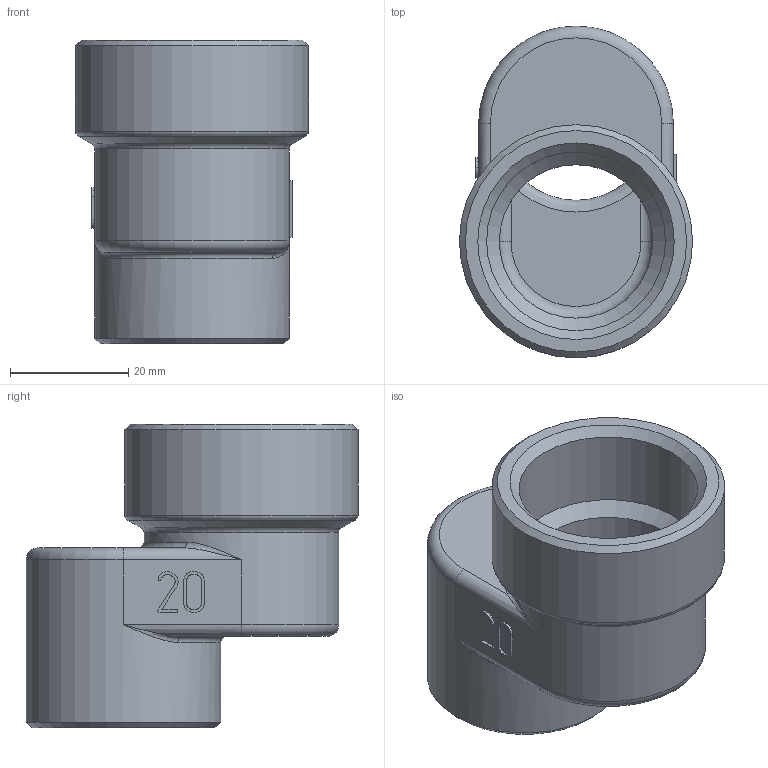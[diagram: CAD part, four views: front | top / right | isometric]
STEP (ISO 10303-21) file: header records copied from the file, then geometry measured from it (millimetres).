
FILE_DESCRIPTION(('STEP AP203'), '1');
FILE_NAME('ÂÐ.752289.014 - VTr.094.N.06020 - Ôèò. ðåçüá. ýêñö', '2024-06-21T11:54:37', ('Boss'), (''), 'C3D Converter', 'C3D Toolkit', '');
FILE_SCHEMA(('CONFIG_CONTROL_DESIGN'));
Length unit declared in the file: millimetre
Products named in the file (1): ВР.752289.014
Bounding box: 39.5 x 56.25 x 51.5 mm (x, y, z)
Volume: 25467.8 mm3; surface area: 13955.2 mm2
Topology: 1 solids, 1 shells, 123 faces, 317 edges, 194 vertices
Faces by surface type: plane 45, extrusion 39, cylinder 15, torus 11, bspline 8, cone 5
Full cylindrical faces by diameter (mm): 26 x2, 30.292 x1, 33 x2, 39.5 x1
Entity records: 4596 total; most frequent: CARTESIAN_POINT 1869, ORIENTED_EDGE 590, DIRECTION 432, EDGE_CURVE 295, VERTEX_POINT 194, VECTOR 190, LINE 151, EDGE_LOOP 145
